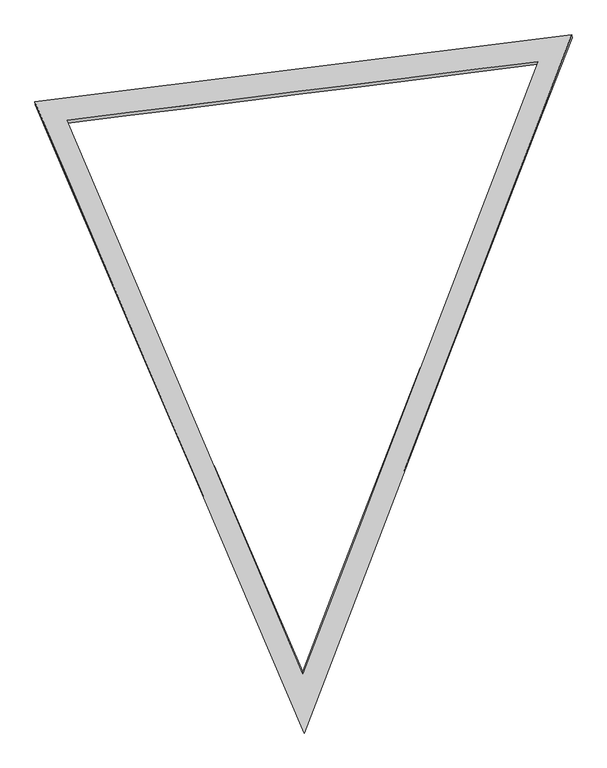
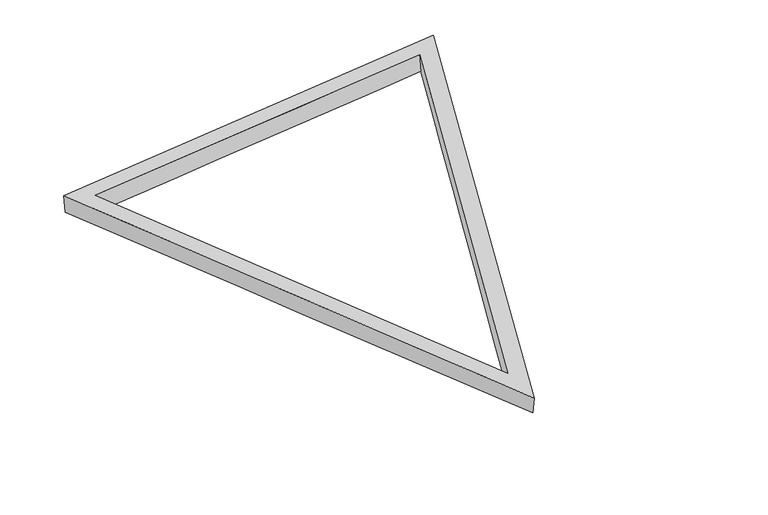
"""IFC4 building model written with IfcOpenShell, lengths in millimetres: plate geometry."""

from ifc_helpers import new_model, si_unit, frame, origin, place, context, project, spatial, source, transform, mapped, element, save
from ifc_brep_helpers import plane_surface, spline_surface, advanced_brep


def plate_24a667f1(model_context):
    return source(origin(), model_context, "Body", "AdvancedBrep", [
        advanced_brep(
        [(3944.3753581, 6608.3221184, 0.0), (3940.3299557, 6636.1974169, 201.2582553), (6089.6298121, 1594.6977007, 201.8933008), (6086.417012, 1613.2700268, 0.0), (8226.680658, 7170.1170798, 201.5776559), (8228.4586659, 7144.3636683, 0.0), (6096.0, 1075.347144, 0.0), (8540.8074664, 7388.2304661, 0.0), (8537.6306011, 7413.6202067, 201.5825106), (6099.6410452, 1053.072332, 201.9426046), (3651.1925336, 6776.4223899, 0.0), (3647.6775777, 6804.5141743, 201.2181322)],
        [
            (0, 1),
            (1, 2),
            (2, 3),
            (3, 0),
            (2, 4),
            (4, 5),
            (5, 3),
            (0, 5),
            (4, 1),
            (6, 7),
            (7, 8),
            (8, 9),
            (9, 6),
            (7, 10),
            (10, 11),
            (11, 8),
            (9, 11),
            (10, 6),
        ],
        [
            spline_surface(1, 1, [[(3944.3753581, 6608.3221184, 0.0), (6086.417012, 1613.2700268, 0.0)], [(3940.3299557, 6636.1974169, 201.2582553), (6089.6298121, 1594.6977007, 201.8933008)]], [2, 2], [2, 2], [0.0, 1.0], [0.0, 1.0]),
            spline_surface(1, 1, [[(6086.417012, 1613.2700268, 0.0), (8228.4586659, 7144.3636683, 0.0)], [(6089.6298121, 1594.6977007, 201.8933008), (8226.680658, 7170.1170798, 201.5776559)]], [2, 2], [2, 2], [0.0, 1.0], [0.0, 1.0]),
            spline_surface(1, 1, [[(8228.4586659, 7144.3636683, 0.0), (3944.3753581, 6608.3221184, 0.0)], [(8226.680658, 7170.1170798, 201.5776559), (3940.3299557, 6636.1974169, 201.2582553)]], [2, 2], [2, 2], [0.0, 1.0], [0.0, 1.0]),
            spline_surface(1, 1, [[(6096.0, 1075.347144, 0.0), (6099.6410452, 1053.072332, 201.9426046)], [(8540.8074664, 7388.2304661, 0.0), (8537.6306011, 7413.6202067, 201.5825106)]], [2, 2], [2, 2], [0.0, 1.0], [0.0, 1.0]),
            spline_surface(1, 1, [[(8540.8074664, 7388.2304661, 0.0), (8537.6306011, 7413.6202067, 201.5825106)], [(3651.1925336, 6776.4223899, 0.0), (3647.6775777, 6804.5141743, 201.2181322)]], [2, 2], [2, 2], [0.0, 1.0], [0.0, 1.0]),
            spline_surface(1, 1, [[(3651.1925336, 6776.4223899, 0.0), (3647.6775777, 6804.5141743, 201.2181322)], [(6096.0, 1075.347144, 0.0), (6099.6410452, 1053.072332, 201.9426046)]], [2, 2], [2, 2], [0.0, 1.0], [0.0, 1.0]),
            plane_surface(frame((6094.9830746, 5090.4022377, 201.5810825), z_axis=(-8.56573748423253e-05, 8.944602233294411e-05, 0.9999999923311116), x_axis=(0.3921700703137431, -0.9198927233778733, 0.00011587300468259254))),
            plane_surface(frame((6096.0, 5080.0, 0.0), z_axis=(0.0, 0.0, -1.0), x_axis=(-0.39412214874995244, 0.919058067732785, 0.0))),
        ],
        [
            (0, [[1, 2, 3, 4]]),
            (1, [[-3, 5, 6, 7]]),
            (2, [[-1, 8, -6, 9]]),
            (3, [[10, 11, 12, 13]]),
            (4, [[-11, 14, 15, 16]]),
            (5, [[-13, 17, -15, 18]]),
            (6, [[-12, -16, -17], [-2, -9, -5]]),
            (7, [[-10, -18, -14], [-4, -7, -8]]),
        ],
    ),
    ])


if __name__ == "__main__":
    model = new_model("IFC4")
    model_context = context("Model", 3, world=origin())
    ifc_project = project(units=[si_unit("LENGTHUNIT", "METRE", prefix="MILLI")], contexts=[model_context])
    site = spatial("IfcSite", under=ifc_project)
    building = spatial("IfcBuilding", under=site)
    placement = place(None, origin())
    plate_shape = plate_24a667f1(model_context)
    element("IfcPlate", 1, ObjectType="tn_cpanel_patbase_triangle_flat_seamless_frame_02_cylinder : tn_triangle_seamless_frame_t8\"xh8\"", at=placement, inside=building, context=model_context, shape_type="MappedRepresentation", body=[
        mapped(plate_shape, transform((0.0, 0.0, 0.0), x_axis=(1.0, 0.0, 0.0), y_axis=(0.0, 1.0, 0.0), z_axis=(0.0, 0.0, 1.0))),
    ])
    save(model, "model.ifc")
